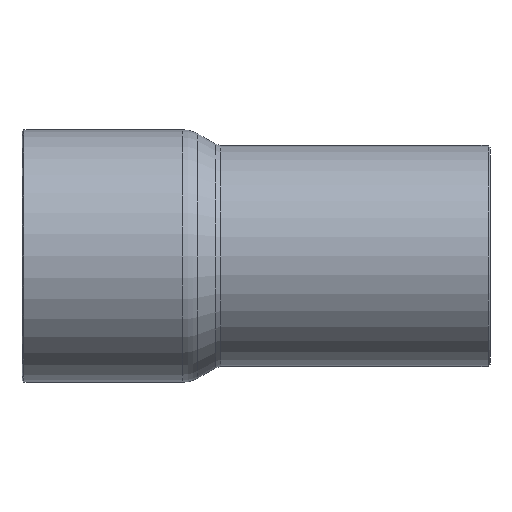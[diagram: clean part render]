
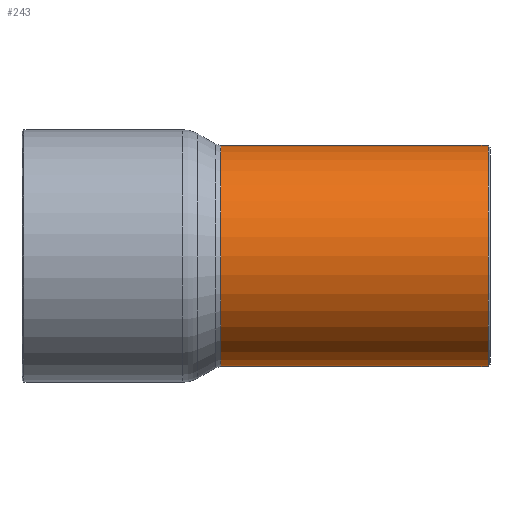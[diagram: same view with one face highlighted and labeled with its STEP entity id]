
A CAD part, front view. The second image highlights one B-rep face of the part: STEP entity #243.
In plain terms, the highlighted cylindrical face has radius 11.115 mm (diameter 22.23 mm), a full revolution.
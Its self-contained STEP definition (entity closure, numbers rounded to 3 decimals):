
#181=CARTESIAN_POINT('',(24.95,11.115,0.));
#182=VERTEX_POINT('',#181);
#183=CARTESIAN_POINT('',(24.95,0.0,0.0));
#184=DIRECTION('',(1.0,0.0,0.0));
#185=DIRECTION('',(0.0,-1.0,0.0));
#186=AXIS2_PLACEMENT_3D('',#183,#184,#185);
#187=CIRCLE('',#186,11.115);
#188=EDGE_CURVE('',#182,#182,#187,.T.);
#224=CARTESIAN_POINT('',(11.607,0.0,0.0));
#225=DIRECTION('',(1.0,0.0,0.0));
#226=DIRECTION('',(0.0,1.0,0.0));
#227=AXIS2_PLACEMENT_3D('',#224,#225,#226);
#228=CYLINDRICAL_SURFACE('',#227,11.115);
#229=CARTESIAN_POINT('',(-1.935,11.115,0.0));
#230=VERTEX_POINT('',#229);
#231=CARTESIAN_POINT('',(-1.935,0.0,0.0));
#232=DIRECTION('',(1.0,0.0,0.0));
#233=DIRECTION('',(0.0,1.0,0.0));
#234=AXIS2_PLACEMENT_3D('',#231,#232,#233);
#235=CIRCLE('',#234,11.115);
#236=EDGE_CURVE('',#230,#230,#235,.T.);
#237=ORIENTED_EDGE('',*,*,#236,.T.);
#238=EDGE_LOOP('',(#237));
#239=FACE_OUTER_BOUND('',#238,.T.);
#240=ORIENTED_EDGE('',*,*,#188,.F.);
#241=EDGE_LOOP('',(#240));
#242=FACE_BOUND('',#241,.T.);
#243=ADVANCED_FACE('',(#239,#242),#228,.T.);
